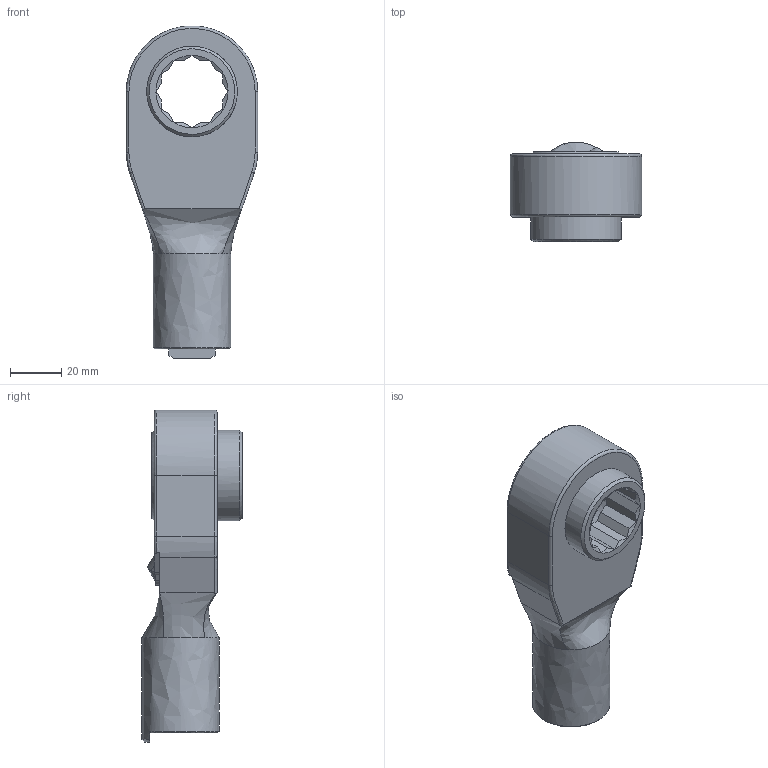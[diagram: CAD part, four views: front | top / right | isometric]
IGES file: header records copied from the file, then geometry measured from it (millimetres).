
Global section: file name: RQH22DX24; native system: Autodesk Inventor 2017; preprocessor: unknown; author: q603; date: 20170209.110131; units: millimetre
Bounding box: 51 x 38.9 x 128.96 mm (x, y, z)
Volume: 97135.2 mm3; surface area: 21832.3 mm2
Topology: 1 solids, 1 shells, 115 faces, 327 edges, 214 vertices
Faces by surface type: bspline 115
